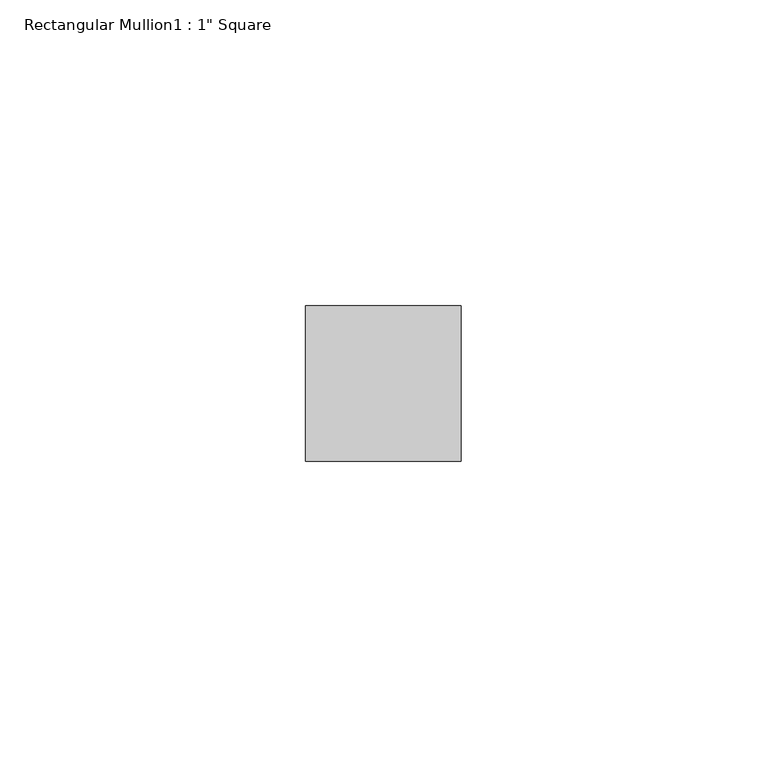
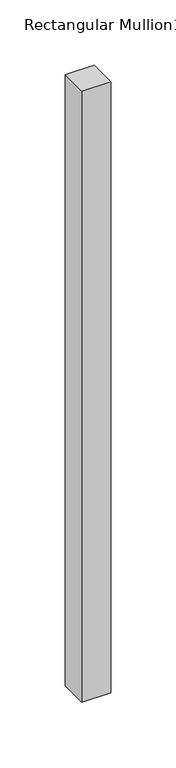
"""IFC4 building model written with IfcOpenShell, lengths in millimetres: member geometry."""

from ifc_helpers import new_model, si_unit, frame, origin, place, context, project, spatial, polyline, outline, extrude, source, transform, mapped, element, save


def member_8ca96f9c(model_context):
    return source(origin(), model_context, "Body", "SweptSolid", [
        extrude(outline(polyline([(12.7, -19.05), (12.7, -44.45), (-12.7, -44.45), (-12.7, -19.05), (12.7, -19.05)])), frame((0.0, 0.0, -571.5), z_axis=(0.0, 0.0, 1.0), x_axis=(1.0, 0.0, 0.0)), (0.0, 0.0, 1.0), 571.5),
    ])


if __name__ == "__main__":
    model = new_model("IFC4")
    model_context = context("Model", 3, world=origin())
    ifc_project = project(units=[si_unit("LENGTHUNIT", "METRE", prefix="MILLI")], contexts=[model_context])
    site = spatial("IfcSite", under=ifc_project)
    building = spatial("IfcBuilding", under=site)
    placement = place(None, origin())
    member_shape = member_8ca96f9c(model_context)
    element("IfcMember", 1, ObjectType="Rectangular Mullion1 : 1\" Square", at=placement, inside=building, context=model_context, shape_type="MappedRepresentation", body=[
        mapped(member_shape, transform((0.0, 0.0, 0.0), x_axis=(1.0, 0.0, 0.0), y_axis=(0.0, 1.0, 0.0), z_axis=(0.0, 0.0, 1.0))),
    ])
    save(model, "model.ifc")
